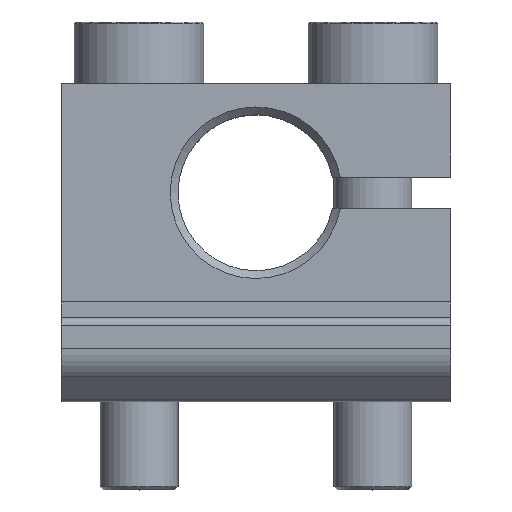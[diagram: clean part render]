
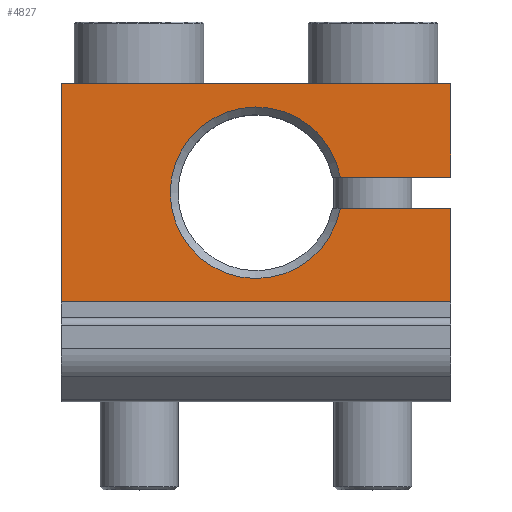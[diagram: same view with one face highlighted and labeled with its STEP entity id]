
A CAD part, top view. The second image highlights one B-rep face of the part: STEP entity #4827.
In plain terms, the highlighted planar face has unit normal (0, 0, 1).
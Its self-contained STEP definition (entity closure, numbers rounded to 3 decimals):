
#146 = CARTESIAN_POINT ( 'NONE',  ( -34.246, 11.495, 22.877 ) ) ;
#383 = EDGE_CURVE ( 'NONE', #3850, #2062, #4879, .T. ) ;
#691 = PLANE ( 'NONE',  #6609 ) ;
#717 = EDGE_CURVE ( 'NONE', #5566, #1920, #3840, .T. ) ;
#725 = DIRECTION ( 'NONE',  ( -1., 0., 0. ) ) ;
#761 = EDGE_LOOP ( 'NONE', ( #8981, #1906, #9254, #2583, #8316, #6093, #5038, #5079 ) ) ;
#781 = CARTESIAN_POINT ( 'NONE',  ( -34.246, 17.495, 22.877 ) ) ;
#1118 = EDGE_CURVE ( 'NONE', #1920, #9206, #4750, .T. ) ;
#1121 = EDGE_CURVE ( 'NONE', #8119, #6560, #3508, .T. ) ;
#1813 = CARTESIAN_POINT ( 'NONE',  ( -41.338, 11.495, 22.877 ) ) ;
#1906 = ORIENTED_EDGE ( 'NONE', *, *, #383, .T. ) ;
#1920 = VERTEX_POINT ( 'NONE', #3811 ) ;
#1961 = DIRECTION ( 'NONE',  ( -1., 0., 0. ) ) ;
#1980 = EDGE_CURVE ( 'NONE', #2062, #5566, #7287, .T. ) ;
#2062 = VERTEX_POINT ( 'NONE', #1813 ) ;
#2115 = DIRECTION ( 'NONE',  ( -1., 0., 0. ) ) ;
#2209 = VERTEX_POINT ( 'NONE', #6161 ) ;
#2447 = CARTESIAN_POINT ( 'NONE',  ( -59.246, 3.495, 22.877 ) ) ;
#2471 = VECTOR ( 'NONE', #4698, 1000. ) ;
#2523 = CARTESIAN_POINT ( 'NONE',  ( -59.246, 2.495, 22.877 ) ) ;
#2542 = CARTESIAN_POINT ( 'NONE',  ( -41.847, 11.495, 22.877 ) ) ;
#2583 = ORIENTED_EDGE ( 'NONE', *, *, #717, .T. ) ;
#3455 = EDGE_CURVE ( 'NONE', #9206, #6560, #4389, .T. ) ;
#3508 = LINE ( 'NONE', #6984, #6425 ) ;
#3610 = CARTESIAN_POINT ( 'NONE',  ( 0., 0., 22.877 ) ) ;
#3677 = VECTOR ( 'NONE', #2115, 1000. ) ;
#3707 = VECTOR ( 'NONE', #3960, 1000. ) ;
#3759 = CARTESIAN_POINT ( 'NONE',  ( -41.338, 9.495, 22.877 ) ) ;
#3811 = CARTESIAN_POINT ( 'NONE',  ( -34.246, 17.495, 22.877 ) ) ;
#3840 = LINE ( 'NONE', #781, #9108 ) ;
#3850 = VERTEX_POINT ( 'NONE', #3759 ) ;
#3960 = DIRECTION ( 'NONE',  ( 1., 0., 0. ) ) ;
#4073 = CARTESIAN_POINT ( 'NONE',  ( -46.746, 10.495, 22.877 ) ) ;
#4140 = FACE_OUTER_BOUND ( 'NONE', #761, .T. ) ;
#4368 = VECTOR ( 'NONE', #5750, 1000. ) ;
#4389 = LINE ( 'NONE', #2523, #2471 ) ;
#4527 = VECTOR ( 'NONE', #1961, 1000. ) ;
#4698 = DIRECTION ( 'NONE',  ( 0., -1., 0. ) ) ;
#4750 = LINE ( 'NONE', #6251, #4527 ) ;
#4802 = DIRECTION ( 'NONE',  ( 0., 0., -1. ) ) ;
#4803 = EDGE_CURVE ( 'NONE', #8119, #2209, #8167, .T. ) ;
#4827 = ADVANCED_FACE ( 'NONE', ( #4140 ), #691, .F. ) ;
#4879 = CIRCLE ( 'NONE', #6453, 5.5 ) ;
#5038 = ORIENTED_EDGE ( 'NONE', *, *, #1121, .F. ) ;
#5056 = DIRECTION ( 'NONE',  ( 0., 0., -1. ) ) ;
#5058 = CARTESIAN_POINT ( 'NONE',  ( -34.246, 3.495, 22.877 ) ) ;
#5079 = ORIENTED_EDGE ( 'NONE', *, *, #4803, .T. ) ;
#5400 = EDGE_CURVE ( 'NONE', #2209, #3850, #5575, .T. ) ;
#5500 = DIRECTION ( 'NONE',  ( -1., 0., 0. ) ) ;
#5539 = DIRECTION ( 'NONE',  ( -1., 0., 0. ) ) ;
#5566 = VERTEX_POINT ( 'NONE', #146 ) ;
#5575 = LINE ( 'NONE', #7109, #3677 ) ;
#5683 = CARTESIAN_POINT ( 'NONE',  ( -34.246, 17.495, 22.877 ) ) ;
#5750 = DIRECTION ( 'NONE',  ( 0., 1., 0. ) ) ;
#6093 = ORIENTED_EDGE ( 'NONE', *, *, #3455, .T. ) ;
#6161 = CARTESIAN_POINT ( 'NONE',  ( -34.246, 9.495, 22.877 ) ) ;
#6251 = CARTESIAN_POINT ( 'NONE',  ( -59.246, 17.495, 22.877 ) ) ;
#6425 = VECTOR ( 'NONE', #5539, 1000. ) ;
#6453 = AXIS2_PLACEMENT_3D ( 'NONE', #4073, #4802, #5500 ) ;
#6560 = VERTEX_POINT ( 'NONE', #2447 ) ;
#6609 = AXIS2_PLACEMENT_3D ( 'NONE', #3610, #5056, #725 ) ;
#6913 = CARTESIAN_POINT ( 'NONE',  ( -59.246, 17.495, 22.877 ) ) ;
#6984 = CARTESIAN_POINT ( 'NONE',  ( -34.246, 3.495, 22.877 ) ) ;
#7109 = CARTESIAN_POINT ( 'NONE',  ( -34.246, 9.495, 22.877 ) ) ;
#7230 = DIRECTION ( 'NONE',  ( 0., 1., 0. ) ) ;
#7287 = LINE ( 'NONE', #2542, #3707 ) ;
#8119 = VERTEX_POINT ( 'NONE', #5058 ) ;
#8167 = LINE ( 'NONE', #5683, #4368 ) ;
#8316 = ORIENTED_EDGE ( 'NONE', *, *, #1118, .T. ) ;
#8981 = ORIENTED_EDGE ( 'NONE', *, *, #5400, .T. ) ;
#9108 = VECTOR ( 'NONE', #7230, 1000. ) ;
#9206 = VERTEX_POINT ( 'NONE', #6913 ) ;
#9254 = ORIENTED_EDGE ( 'NONE', *, *, #1980, .T. ) ;
